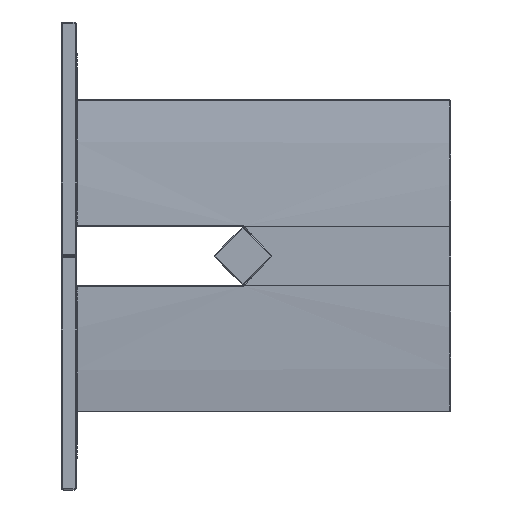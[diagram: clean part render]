
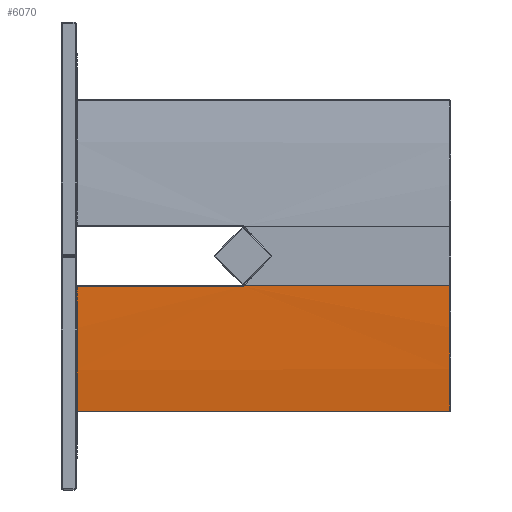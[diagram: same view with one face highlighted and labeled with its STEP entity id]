
A CAD part, left-side view. The second image highlights one B-rep face of the part: STEP entity #6070.
In plain terms, the highlighted cylindrical face has radius 1750 mm (diameter 3500 mm), a partial arc.
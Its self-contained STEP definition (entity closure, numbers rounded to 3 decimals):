
#4 = CARTESIAN_POINT ( 'NONE',  ( -720., 397.78, -57.102 ) ) ;
#51 = CARTESIAN_POINT ( 'NONE',  ( 1030., 2., -56.5 ) ) ;
#275 = EDGE_LOOP ( 'NONE', ( #2861, #772, #2939, #968, #3161, #3620 ) ) ;
#571 = LINE ( 'NONE', #736, #4206 ) ;
#603 = CARTESIAN_POINT ( 'NONE',  ( -720., 398.938, -57.799 ) ) ;
#721 = VECTOR ( 'NONE', #4429, 1000. ) ;
#736 = CARTESIAN_POINT ( 'NONE',  ( -719.999, 1322.993, -58.502 ) ) ;
#772 = ORIENTED_EDGE ( 'NONE', *, *, #4419, .T. ) ;
#774 = DIRECTION ( 'NONE',  ( 0., 1., 0. ) ) ;
#869 = VERTEX_POINT ( 'NONE', #1823 ) ;
#968 = ORIENTED_EDGE ( 'NONE', *, *, #1492, .T. ) ;
#990 = EDGE_CURVE ( 'NONE', #5635, #4420, #3349, .T. ) ;
#1086 = CARTESIAN_POINT ( 'NONE',  ( -720., 398.538, -57.588 ) ) ;
#1095 = AXIS2_PLACEMENT_3D ( 'NONE', #51, #3828, #1201 ) ;
#1130 = EDGE_CURVE ( 'NONE', #869, #6384, #5191, .T. ) ;
#1155 = CARTESIAN_POINT ( 'NONE',  ( -719.999, 402.003, -58.502 ) ) ;
#1201 = DIRECTION ( 'NONE',  ( 0., 0., 1. ) ) ;
#1297 = CARTESIAN_POINT ( 'NONE',  ( 1030., 720., -56.5 ) ) ;
#1492 = EDGE_CURVE ( 'NONE', #869, #4450, #3351, .T. ) ;
#1556 = CARTESIAN_POINT ( 'NONE',  ( -720., 1322.993, -56.5 ) ) ;
#1679 = CARTESIAN_POINT ( 'NONE',  ( -719.999, 401.09, -58.457 ) ) ;
#1823 = CARTESIAN_POINT ( 'NONE',  ( -703.218, 720., -298.276 ) ) ;
#1901 = AXIS2_PLACEMENT_3D ( 'NONE', #5297, #2744, #3649 ) ;
#2004 = VERTEX_POINT ( 'NONE', #4940 ) ;
#2206 = AXIS2_PLACEMENT_3D ( 'NONE', #1297, #774, #6065 ) ;
#2225 = CARTESIAN_POINT ( 'NONE',  ( -719.999, 399.775, -58.153 ) ) ;
#2607 = CYLINDRICAL_SURFACE ( 'NONE', #1901, 1750. ) ;
#2718 = CARTESIAN_POINT ( 'NONE',  ( -720., 397.104, -56.5 ) ) ;
#2744 = DIRECTION ( 'NONE',  ( 0., -1., 0. ) ) ;
#2776 = CARTESIAN_POINT ( 'NONE',  ( -719.999, 402.003, -58.502 ) ) ;
#2861 = ORIENTED_EDGE ( 'NONE', *, *, #990, .T. ) ;
#2939 = ORIENTED_EDGE ( 'NONE', *, *, #1130, .F. ) ;
#3107 = DIRECTION ( 'NONE',  ( 0., -1., 0. ) ) ;
#3161 = ORIENTED_EDGE ( 'NONE', *, *, #5219, .T. ) ;
#3254 = FACE_OUTER_BOUND ( 'NONE', #275, .T. ) ;
#3349 = B_SPLINE_CURVE_WITH_KNOTS ( 'NONE', 3,
 ( #3787, #3687, #4, #4260, #1086, #603, #4826, #2225, #6412, #1679, #5895, #1155 ),
 .UNSPECIFIED., .F., .F.,
 ( 4, 2, 2, 2, 2, 4 ),
 ( 0., 0.001, 0.002, 0.003, 0.004, 0.005 ),
 .UNSPECIFIED. ) ;
#3351 = LINE ( 'NONE', #4462, #721 ) ;
#3620 = ORIENTED_EDGE ( 'NONE', *, *, #5117, .F. ) ;
#3649 = DIRECTION ( 'NONE',  ( 0., 0., -1. ) ) ;
#3687 = CARTESIAN_POINT ( 'NONE',  ( -720., 397.429, -56.819 ) ) ;
#3787 = CARTESIAN_POINT ( 'NONE',  ( -720., 397.104, -56.5 ) ) ;
#3828 = DIRECTION ( 'NONE',  ( 0., 1., 0. ) ) ;
#4206 = VECTOR ( 'NONE', #6543, 1000. ) ;
#4260 = CARTESIAN_POINT ( 'NONE',  ( -720., 398.344, -57.473 ) ) ;
#4403 = CIRCLE ( 'NONE', #1095, 1750. ) ;
#4419 = EDGE_CURVE ( 'NONE', #4420, #6384, #571, .T. ) ;
#4420 = VERTEX_POINT ( 'NONE', #2776 ) ;
#4429 = DIRECTION ( 'NONE',  ( 0., -1., 0. ) ) ;
#4450 = VERTEX_POINT ( 'NONE', #5505 ) ;
#4462 = CARTESIAN_POINT ( 'NONE',  ( -703.218, 1322.993, -298.276 ) ) ;
#4782 = CARTESIAN_POINT ( 'NONE',  ( -719.999, 720., -58.502 ) ) ;
#4826 = CARTESIAN_POINT ( 'NONE',  ( -719.999, 399.146, -57.896 ) ) ;
#4940 = CARTESIAN_POINT ( 'NONE',  ( -720., 2., -56.5 ) ) ;
#5070 = VECTOR ( 'NONE', #3107, 1000. ) ;
#5117 = EDGE_CURVE ( 'NONE', #5635, #2004, #6815, .T. ) ;
#5191 = CIRCLE ( 'NONE', #2206, 1750. ) ;
#5219 = EDGE_CURVE ( 'NONE', #4450, #2004, #4403, .T. ) ;
#5297 = CARTESIAN_POINT ( 'NONE',  ( 1030., 1322.993, -56.5 ) ) ;
#5505 = CARTESIAN_POINT ( 'NONE',  ( -703.218, 2., -298.276 ) ) ;
#5635 = VERTEX_POINT ( 'NONE', #2718 ) ;
#5895 = CARTESIAN_POINT ( 'NONE',  ( -719.999, 401.546, -58.502 ) ) ;
#6065 = DIRECTION ( 'NONE',  ( 0., 0., 1. ) ) ;
#6070 = ADVANCED_FACE ( 'NONE', ( #3254 ), #2607, .T. ) ;
#6384 = VERTEX_POINT ( 'NONE', #4782 ) ;
#6412 = CARTESIAN_POINT ( 'NONE',  ( -719.999, 400.205, -58.282 ) ) ;
#6543 = DIRECTION ( 'NONE',  ( 0., 1., 0. ) ) ;
#6815 = LINE ( 'NONE', #1556, #5070 ) ;
